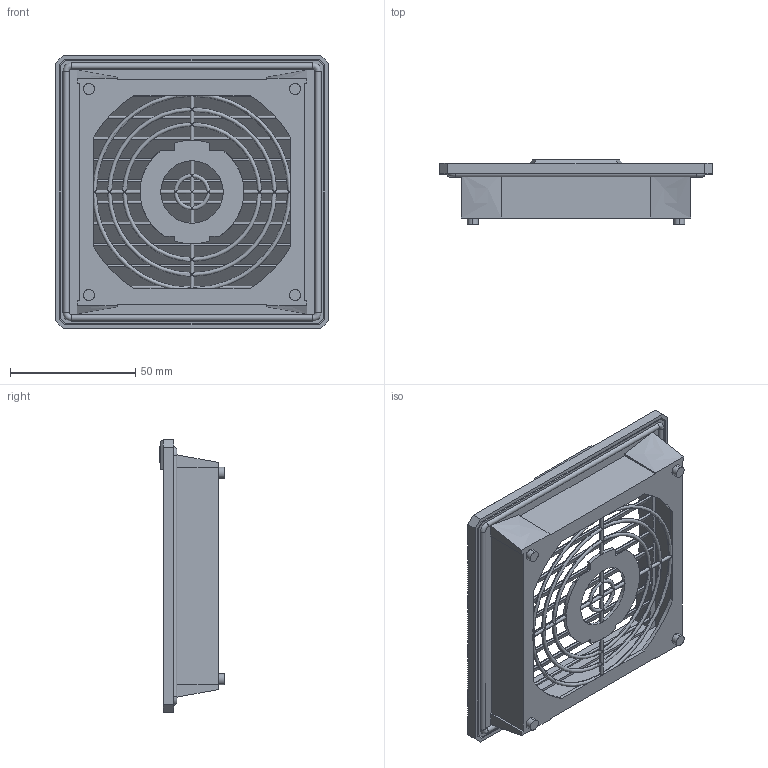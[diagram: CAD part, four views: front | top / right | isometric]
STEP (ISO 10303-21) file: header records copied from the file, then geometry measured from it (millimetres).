
FILE_DESCRIPTION (( 'STEP AP214' ), '1' );
FILE_NAME ('PFA 10000_AP214.STEP', '2019-05-24T09:14:30', ( '' ), ( '' ), 'SwSTEP 2.0', 'SolidWorks 2017', '' );
FILE_SCHEMA (( 'AUTOMOTIVE_DESIGN' ));
Length unit declared in the file: millimetre
Products named in the file (4): 30162-013; cover PF1x; housing PF1x; PFA 10000_AP214
Assembly tree (3 placements, depth 2):
  PFA 10000_AP214
    housing PF1x
    cover PF1x
    30162-013
Bounding box: 109 x 25.94 x 109 mm (x, y, z)
Volume: 48864.6 mm3; surface area: 69209 mm2
Topology: 3 solids, 3 shells, 1176 faces, 3228 edges, 2068 vertices
Faces by surface type: plane 590, cylinder 310, bspline 240, torus 36
Entity records: 48930 total; most frequent: CARTESIAN_POINT 21160, ORIENTED_EDGE 6456, DIRECTION 4566, EDGE_CURVE 3228, VERTEX_POINT 2068, VECTOR 1798, LINE 1798, AXIS2_PLACEMENT_3D 1384
